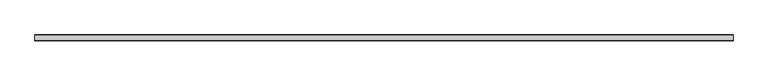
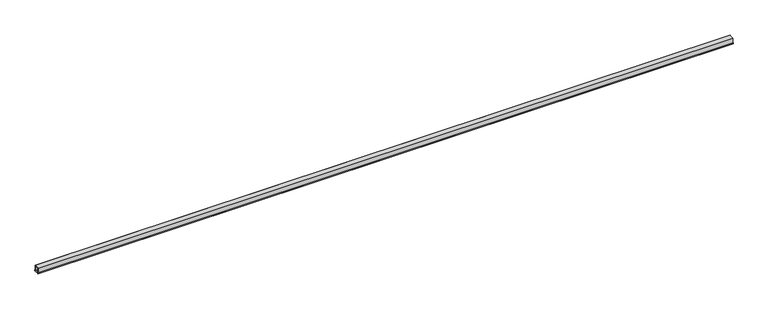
"""IFC4 building model written with IfcOpenShell, lengths in millimetres: light fixture geometry, 20207_レースウェイ : 45型×w40."""

import ifcopenshell
import ifcopenshell.guid

model = None  # the IFC model being written
_history = None  # IfcOwnerHistory: only IFC2X3 demands one
_inside = {}  # id of a spatial element -> (the spatial element, [elements in it])
_under = {}  # id of a project, library or spatial element -> (it, [spatial elements below it])
_declared = {}  # id of a project -> (the project, [libraries it declares])
_typed = {}  # id of a type object -> (the type object, [elements of that type])
_made_of = {}  # id of a material, layer set ... -> (it, [elements and type objects made of it])


def new_model(schema):
    """Start an empty IFC model of exactly this schema.

    Asked for "IFC4X3", IfcOpenShell would pick the latest addendum, in which some entities
    have other attributes; the version numbers below select the first issue.
    IFC2X3 requires an IfcOwnerHistory on every rooted entity: one is made here for all.
    """
    global model, _history
    if schema == "IFC4X3":
        model = ifcopenshell.file(schema_version=(4, 3, 0, 0))
    else:
        model = ifcopenshell.file(schema=schema)
    _inside.clear()
    _under.clear()
    _declared.clear()
    _typed.clear()
    _made_of.clear()
    _history = None
    if model.schema == "IFC2X3":
        org = make("IfcOrganization", Name="unknown")
        user = make(
            "IfcPersonAndOrganization",
            ThePerson=make("IfcPerson", FamilyName="unknown"),
            TheOrganization=org,
        )
        app = make(
            "IfcApplication",
            ApplicationDeveloper=org,
            Version="unknown",
            ApplicationFullName="unknown",
            ApplicationIdentifier="unknown",
        )
        _history = make(
            "IfcOwnerHistory",
            OwningUser=user,
            OwningApplication=app,
            ChangeAction="ADDED",
            CreationDate=0,
        )
    return model


def make(cls, **values):
    """One entity of the class cls with the attributes given. An attribute that is None is left unset."""
    return model.create_entity(
        cls, **{name: value for name, value in values.items() if value is not None}
    )


def rooted(cls, **values):
    """An entity with a GlobalId (a new one), such as an element, a storey or a relation."""
    return make(cls, GlobalId=ifcopenshell.guid.new(), OwnerHistory=_history, **values)


def si_unit(unit_type, name, prefix=None):
    """IfcSIUnit, for example si_unit("LENGTHUNIT", "METRE", prefix="MILLI")."""
    return make("IfcSIUnit", UnitType=unit_type, Prefix=prefix, Name=name)


def assignment(units):
    """IfcUnitAssignment: the units of a project."""
    return None if units is None else make("IfcUnitAssignment", Units=units)


def point(xyz):
    """IfcCartesianPoint."""
    return None if xyz is None else make("IfcCartesianPoint", Coordinates=xyz)


def direction(xyz):
    """IfcDirection."""
    return None if xyz is None else make("IfcDirection", DirectionRatios=xyz)


def frame(location, z_axis=None, x_axis=None):
    """IfcAxis2Placement3D, a coordinate frame: its origin and axes. An axis left out is left unset."""
    return make(
        "IfcAxis2Placement3D",
        Location=point(location),
        Axis=direction(z_axis),
        RefDirection=direction(x_axis),
    )


def origin():
    """The frame at (0, 0, 0) with its axes left unset."""
    return frame((0.0, 0.0, 0.0))


def place(relative_to, where):
    """IfcLocalPlacement: puts the frame where relative to a parent placement (None: the world)."""
    return make(
        "IfcLocalPlacement", PlacementRelTo=relative_to, RelativePlacement=where
    )


def context(
    kind, dimensions, precision=None, world=None, true_north=None, identifier=None
):
    """IfcGeometricRepresentationContext, for example the 3D "Model" context."""
    return make(
        "IfcGeometricRepresentationContext",
        ContextIdentifier=identifier,
        ContextType=kind,
        CoordinateSpaceDimension=dimensions,
        Precision=precision,
        WorldCoordinateSystem=world,
        TrueNorth=true_north,
    )


def project(units=None, contexts=None):
    """IfcProject with its units and contexts."""
    return rooted(
        "IfcProject",
        Name="project",
        RepresentationContexts=contexts,
        UnitsInContext=assignment(units),
    )


def spatial(cls, under=None, at=None, **own):
    """A site, building, storey or space (cls), placed at a placement, below another one or the project."""
    s = rooted(cls, ObjectPlacement=at, **own)
    if under is not None:
        _under.setdefault(under.id(), (under, []))[1].append(s)
    return s


def polyline(points):
    """IfcPolyline through the points."""
    return make("IfcPolyline", Points=[point(p) for p in points])


def outline(outer, holes=None, kind="AREA"):
    """IfcArbitraryClosedProfileDef: a profile drawn as a closed curve; with holes, ...WithVoids."""
    if holes is None:
        return make("IfcArbitraryClosedProfileDef", ProfileType=kind, OuterCurve=outer)
    return make(
        "IfcArbitraryProfileDefWithVoids",
        ProfileType=kind,
        OuterCurve=outer,
        InnerCurves=holes,
    )


def extrude(swept, where, along, depth):
    """IfcExtrudedAreaSolid: the profile swept, set in the frame where, extruded along a direction by depth."""
    return make(
        "IfcExtrudedAreaSolid",
        SweptArea=swept,
        Position=where,
        ExtrudedDirection=direction(along),
        Depth=depth,
    )


def shape(context_of_items, identifier, shape_type, items):
    """IfcShapeRepresentation: the items that make up one representation, for example the "Body"."""
    return make(
        "IfcShapeRepresentation",
        ContextOfItems=context_of_items,
        RepresentationIdentifier=identifier,
        RepresentationType=shape_type,
        Items=items,
    )


def source(mapping_origin, context_of_items, identifier, shape_type, items):
    """IfcRepresentationMap: a shape defined once, which mapped items show again and again."""
    return make(
        "IfcRepresentationMap",
        MappingOrigin=mapping_origin,
        MappedRepresentation=shape(context_of_items, identifier, shape_type, items),
    )


def transform(
    local_origin,
    x_axis=None,
    y_axis=None,
    z_axis=None,
    scale=None,
    scale2=None,
    scale3=None,
    uniform=True,
):
    """IfcCartesianTransformationOperator3D, or its non-uniform kind. x_axis, y_axis, z_axis: its Axis1, 2, 3."""
    if uniform:
        return make(
            "IfcCartesianTransformationOperator3D",
            Axis1=direction(x_axis),
            Axis2=direction(y_axis),
            LocalOrigin=point(local_origin),
            Scale=scale,
            Axis3=direction(z_axis),
        )
    return make(
        "IfcCartesianTransformationOperator3DnonUniform",
        Axis1=direction(x_axis),
        Axis2=direction(y_axis),
        LocalOrigin=point(local_origin),
        Scale=scale,
        Axis3=direction(z_axis),
        Scale2=scale2,
        Scale3=scale3,
    )


def mapped(mapping_source, mapping_target):
    """IfcMappedItem: shows the shape of a source again, moved by a transform."""
    return make(
        "IfcMappedItem", MappingSource=mapping_source, MappingTarget=mapping_target
    )


def made_of(thing, what):
    """Note that an element or type object is made of a material, layer set ...; save() writes the relation."""
    if what is not None:
        _made_of.setdefault(what.id(), (what, []))[1].append(thing)
    return thing


def element(
    cls,
    number,
    at=None,
    inside=None,
    cuts=None,
    type_object=None,
    material=None,
    context=None,
    identifier="Body",
    shape_type=None,
    held_by="IfcProductDefinitionShape",
    body=None,
    shapes=None,
    **own,
):
    """One element of the class cls, such as IfcWall. Its Tag is "e" and its number.

    at: its placement. inside: the storey or other place that contains it. cuts: it is an
    opening in that element (IfcRelVoidsElement). A single representation is given by context,
    identifier, shape_type and body (its items); several are given by shapes. held_by: the class
    of the entity that holds the representations. save() writes the other relations.
    """
    e = rooted(cls, Tag="e%d" % number, ObjectPlacement=at, **own)
    if body is not None:
        shapes = [shape(context, identifier, shape_type, body)]
    if shapes is not None:
        e.Representation = make(held_by, Representations=shapes)
    if inside is not None:
        _inside.setdefault(inside.id(), (inside, []))[1].append(e)
    if cuts is not None:
        rooted(
            "IfcRelVoidsElement", RelatingBuildingElement=cuts, RelatedOpeningElement=e
        )
    if type_object is not None:
        _typed.setdefault(type_object.id(), (type_object, []))[1].append(e)
    return made_of(e, material)


def aggregate(whole, parts):
    """IfcRelAggregates: a whole, such as a stair, and the parts it consists of."""
    return rooted("IfcRelAggregates", RelatingObject=whole, RelatedObjects=parts)


def save(model, path):
    """Write the relations noted so far, then the file.

    IfcRelAggregates (storeys below a building ...), IfcRelContainedInSpatialStructure (elements
    in a storey), IfcRelDefinesByType, IfcRelAssociatesMaterial and IfcRelDeclares: one each for
    every whole, place, type object, material and project.
    """
    for whole, parts in _under.values():
        aggregate(whole, parts)
    for where, things in _inside.values():
        rooted(
            "IfcRelContainedInSpatialStructure",
            RelatedElements=things,
            RelatingStructure=where,
        )
    for kind, things in _typed.values():
        rooted("IfcRelDefinesByType", RelatedObjects=things, RelatingType=kind)
    for what, things in _made_of.values():
        rooted("IfcRelAssociatesMaterial", RelatedObjects=things, RelatingMaterial=what)
    for by, libraries in _declared.values():
        rooted("IfcRelDeclares", RelatingContext=by, RelatedDefinitions=libraries)
    model.write(path)


def light_fixture_9794773d(model_context):
    return source(origin(), model_context, "Body", "SweptSolid", [
        extrude(outline(polyline([(-21.7, 8.2), (-20.5, 8.2), (-20.5, 1.2), (20.5, 1.2), (20.5, 8.2), (21.7, 8.2), (21.7, 0.0), (-21.7, 0.0), (-21.7, 8.2)])), frame((-2665.0, 0.0, 0.0), z_axis=(1.0, 0.0, 0.0), x_axis=(0.0, 1.0, 0.0)), (0.0, 0.0, 1.0), 5330.0),
        extrude(outline(polyline([(-20.0, 46.2), (20.0, 46.2), (20.0, 1.2), (18.4, 1.2), (10.0, 11.2), (11.2251278, 12.2291073), (18.4, 3.6875928), (18.4, 44.6), (-18.4, 44.6), (-18.4, 3.6875928), (-11.2251278, 12.2291073), (-10.0, 11.2), (-18.4, 1.2), (-20.0, 1.2), (-20.0, 46.2)])), frame((-2665.0, 0.0, 0.0), z_axis=(1.0, 0.0, 0.0), x_axis=(0.0, 1.0, 0.0)), (0.0, 0.0, 1.0), 5330.0),
    ])


if __name__ == "__main__":
    model = new_model("IFC4")
    model_context = context("Model", 3, world=origin())
    ifc_project = project(units=[si_unit("LENGTHUNIT", "METRE", prefix="MILLI")], contexts=[model_context])
    site = spatial("IfcSite", under=ifc_project)
    building = spatial("IfcBuilding", under=site)
    placement = place(None, origin())
    light_fixture_shape = light_fixture_9794773d(model_context)
    element("IfcLightFixture", 1, ObjectType="20207_レースウェイ : 45型×w40", at=placement, inside=building, context=model_context, shape_type="MappedRepresentation", body=[
        mapped(light_fixture_shape, transform((0.0, 0.0, 0.0), x_axis=(1.0, 0.0, 0.0), y_axis=(0.0, 1.0, 0.0), z_axis=(0.0, 0.0, 1.0))),
    ])
    save(model, "model.ifc")
